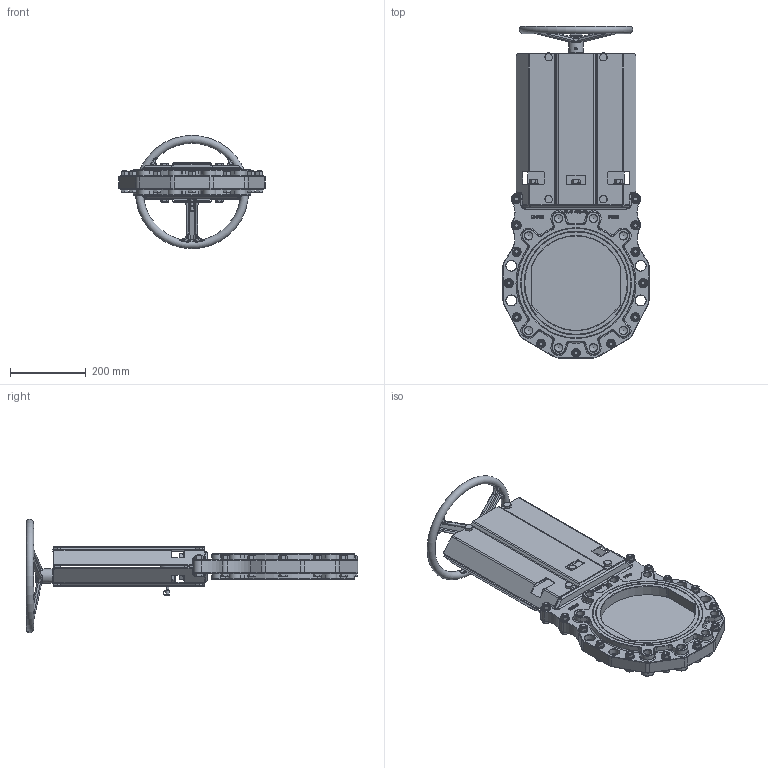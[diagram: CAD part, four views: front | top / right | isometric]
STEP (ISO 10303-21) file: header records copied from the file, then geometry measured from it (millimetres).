
FILE_DESCRIPTION(/* description */ (''),/* implementation_level */ '2;1');
FILE_NAME(/* name */ 'Non-rising stem knife gate valve with handwheel DN250-16.stp',/* time_stamp */ '2025-04-02T09:35:25+08:00',/* author */ (''),/* organization */ (''),/* preprocessor_version */ 'ST-DEVELOPER v15',/* originating_system */ 'SIEMENS PLM Software NX 10.0',/* authorisation */ '');
FILE_SCHEMA (('AP203_CONFIGURATION_CONTROLLED_3D_DESIGN_OF_MECHANICAL_PARTS_AND_ASSEMBLIES_MIM_LF { 1 0 10303 403 2 1 2}'));
Products named in the file (1): Admi271CEB492ey6
Bounding box: 386.9 x 879.28 x 299.96 mm (x, y, z)
Volume: 7654238.8 mm3; surface area: 1336572.4 mm2
Topology: 1 solids, 33 shells, 3246 faces, 7869 edges, 4860 vertices
Faces by surface type: plane 1240, cylinder 730, bspline 455, cone 306, torus 247, extrusion 224, sphere 44
Full cylindrical faces by diameter (mm): 6 x3, 6.2 x1, 9 x1, 9.188 x2, 10.106 x8, 10.5 x2, 11.053 x15, 11.5 x1, 12 x32, 13 x32, 15.4 x2, 17.2 x21, 20 x4, 20.752 x16, 22.5 x1, 24 x32, 28 x9, 35 x3, 38 x1
Entity records: 100542 total; most frequent: CARTESIAN_POINT 30600, ORIENTED_EDGE 14728, DIRECTION 12791, EDGE_CURVE 7364, VERTEX_POINT 4772, AXIS2_PLACEMENT_3D 4709, EDGE_LOOP 3924, VECTOR 3373
